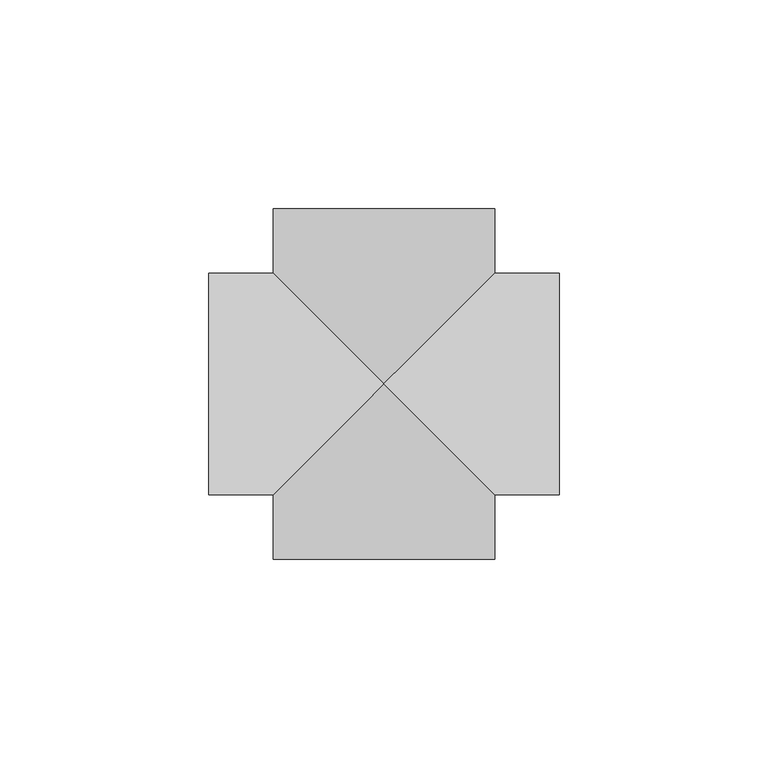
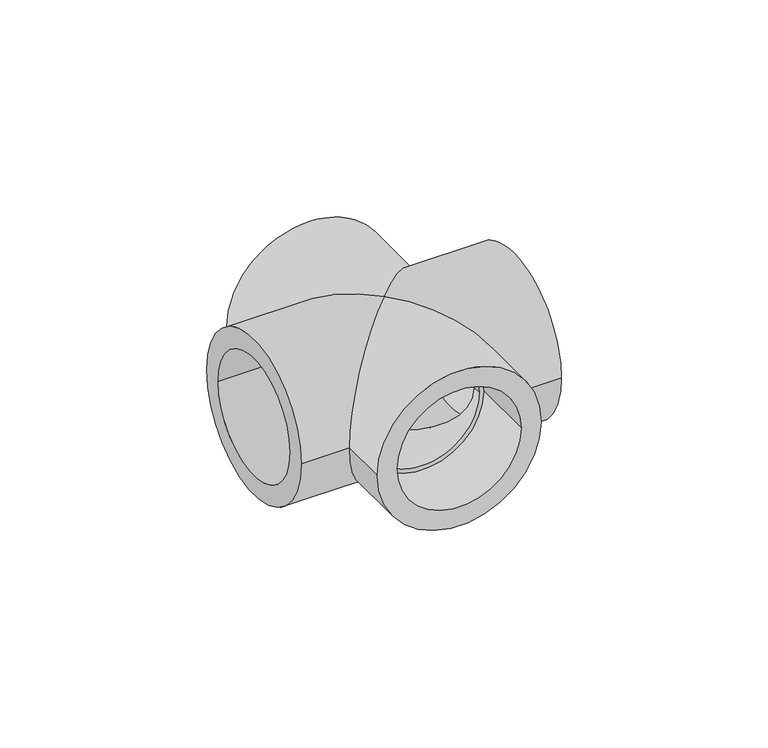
"""IFC4 building model written with IfcOpenShell, lengths in millimetres: pipe fitting geometry, 17_Крестовина : Белый цвет."""

from ifc_helpers import new_model, si_unit, frame, origin, place, context, project, spatial, polyline, circle_curve, ellipse_curve, source, transform, mapped, element, save
from ifc_brep_helpers import plane_surface, cylinder_surface, revolved_surface, advanced_brep


def pipe_fitting_b7cdcae7(model_context):
    return source(origin(), model_context, "Body", "AdvancedBrep", [
        advanced_brep(
        [(42.0, -26.5, 0.0), (42.0, 26.5, 0.0), (42.0, 20.0, 0.0), (42.0, -20.0, 0.0), (-42.0, -26.5, 0.0), (-42.0, 26.5, 0.0), (-42.0, -20.0, 0.0), (-42.0, 20.0, 0.0), (26.5, -26.5, 0.0), (0.0, 0.0, -26.5), (26.5, 26.5, 0.0), (-26.5, 26.5, 0.0), (-26.5, -26.5, 0.0), (0.0, 0.0, 26.5), (-18.5, -18.5, 0.0), (-18.5, -21.2, 0.0), (18.5, -21.2, 0.0), (18.5, -18.5, 0.0), (0.0, 0.0, -18.5), (-18.5, 21.2, 0.0), (-18.5, 18.5, 0.0), (18.5, 18.5, 0.0), (18.5, 21.2, 0.0), (0.0, 0.0, 18.5), (-21.2, -18.5, 0.0), (-21.2, 18.5, 0.0), (21.2, 18.5, 0.0), (21.2, -18.5, 0.0), (-20.0, 21.2, 0.0), (20.0, 21.2, 0.0), (20.0, 42.0, 0.0), (-20.0, 42.0, 0.0), (-26.5, -42.0, 0.0), (26.5, -42.0, 0.0), (20.0, -42.0, 0.0), (-20.0, -42.0, 0.0), (-26.5, 42.0, 0.0), (26.5, 42.0, 0.0), (-21.2, -20.0, 0.0), (-21.2, 20.0, 0.0), (-20.0, -21.2, 0.0), (20.0, -21.2, 0.0), (21.2, -20.0, 0.0), (21.2, 20.0, 0.0)],
        [
            (0, 1, circle_curve(frame((42.0, 0.0, 0.0), z_axis=(1.0, 0.0, 0.0), x_axis=(0.0, 1.0, 0.0)), 26.5)),
            (1, 0, circle_curve(frame((42.0, 0.0, 0.0), z_axis=(1.0, 0.0, 0.0), x_axis=(0.0, 1.0, 0.0)), 26.5)),
            (2, 3, circle_curve(frame((42.0, 0.0, 0.0), z_axis=(-1.0, 0.0, 0.0), x_axis=(0.0, 1.0, 0.0)), 20.0)),
            (3, 2, circle_curve(frame((42.0, 0.0, 0.0), z_axis=(-1.0, 0.0, 0.0), x_axis=(0.0, 1.0, 0.0)), 20.0)),
            (4, 5, circle_curve(frame((-42.0, 0.0, 0.0), z_axis=(-1.0, 0.0, 0.0), x_axis=(0.0, 1.0, 0.0)), 26.5)),
            (5, 4, circle_curve(frame((-42.0, 0.0, 0.0), z_axis=(-1.0, 0.0, 0.0), x_axis=(0.0, 1.0, 0.0)), 26.5)),
            (6, 7, circle_curve(frame((-42.0, 0.0, 0.0), z_axis=(1.0, 0.0, 0.0), x_axis=(0.0, 1.0, 0.0)), 20.0)),
            (7, 6, circle_curve(frame((-42.0, 0.0, 0.0), z_axis=(1.0, 0.0, 0.0), x_axis=(0.0, 1.0, 0.0)), 20.0)),
            (0, 8),
            (8, 9, ellipse_curve(frame((0.0, 0.0, 0.0), z_axis=(0.7071067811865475, 0.7071067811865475, 0.0), x_axis=(0.7071067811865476, -0.7071067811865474, 0.0)), 37.4766594, 26.5)),
            (9, 10, ellipse_curve(frame((0.0, 0.0, 0.0), z_axis=(0.7071067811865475, -0.7071067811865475, 0.0), x_axis=(0.7071067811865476, 0.7071067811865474, 0.0)), 37.4766594, 26.5)),
            (10, 1),
            (5, 11),
            (11, 9, ellipse_curve(frame((0.0, 0.0, 0.0), z_axis=(-0.7071067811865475, -0.7071067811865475, 0.0), x_axis=(0.7071067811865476, -0.7071067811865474, 0.0)), 37.4766594, 26.5)),
            (9, 12, ellipse_curve(frame((0.0, 0.0, 0.0), z_axis=(-0.7071067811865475, 0.7071067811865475, 0.0), x_axis=(0.7071067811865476, 0.7071067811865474, 0.0)), 37.4766594, 26.5)),
            (12, 4),
            (10, 13, ellipse_curve(frame((0.0, 0.0, 0.0), z_axis=(0.7071067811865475, -0.7071067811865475, 0.0), x_axis=(0.7071067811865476, 0.7071067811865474, 0.0)), 37.4766594, 26.5)),
            (13, 8, ellipse_curve(frame((0.0, 0.0, 0.0), z_axis=(0.7071067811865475, 0.7071067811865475, 0.0), x_axis=(0.7071067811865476, -0.7071067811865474, 0.0)), 37.4766594, 26.5)),
            (12, 13, ellipse_curve(frame((0.0, 0.0, 0.0), z_axis=(-0.7071067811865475, 0.7071067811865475, 0.0), x_axis=(0.7071067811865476, 0.7071067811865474, 0.0)), 37.4766594, 26.5)),
            (13, 11, ellipse_curve(frame((0.0, 0.0, 0.0), z_axis=(-0.7071067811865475, -0.7071067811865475, 0.0), x_axis=(0.7071067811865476, -0.7071067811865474, 0.0)), 37.4766594, 26.5)),
            (14, 15),
            (15, 16, circle_curve(frame((0.0, -21.2, 0.0), z_axis=(0.0, -1.0, 0.0), x_axis=(1.0, 0.0, 0.0)), 18.5)),
            (16, 17),
            (17, 18, ellipse_curve(frame((0.0, 0.0, 0.0), z_axis=(0.7071067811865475, 0.7071067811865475, 0.0), x_axis=(0.7071067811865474, -0.7071067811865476, 0.0)), 26.1629509, 18.5)),
            (18, 14, ellipse_curve(frame((0.0, 0.0, 0.0), z_axis=(-0.7071067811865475, 0.7071067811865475, 0.0), x_axis=(-0.7071067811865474, -0.7071067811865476, 0.0)), 26.1629509, 18.5)),
            (19, 20),
            (20, 18, ellipse_curve(frame((0.0, 0.0, 0.0), z_axis=(-0.7071067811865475, -0.7071067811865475, 0.0), x_axis=(0.7071067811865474, -0.7071067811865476, 0.0)), 26.1629509, 18.5)),
            (18, 21, ellipse_curve(frame((0.0, 0.0, 0.0), z_axis=(0.7071067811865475, -0.7071067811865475, 0.0), x_axis=(-0.7071067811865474, -0.7071067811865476, 0.0)), 26.1629509, 18.5)),
            (21, 22),
            (22, 19, circle_curve(frame((0.0, 21.2, 0.0), z_axis=(0.0, 1.0, 0.0), x_axis=(1.0, 0.0, 0.0)), 18.5)),
            (14, 23, ellipse_curve(frame((0.0, 0.0, 0.0), z_axis=(-0.7071067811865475, 0.7071067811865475, 0.0), x_axis=(-0.7071067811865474, -0.7071067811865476, 0.0)), 26.1629509, 18.5)),
            (23, 17, ellipse_curve(frame((0.0, 0.0, 0.0), z_axis=(0.7071067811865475, 0.7071067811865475, 0.0), x_axis=(0.7071067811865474, -0.7071067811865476, 0.0)), 26.1629509, 18.5)),
            (16, 15, circle_curve(frame((0.0, -21.2, 0.0), z_axis=(0.0, -1.0, 0.0), x_axis=(1.0, 0.0, 0.0)), 18.5)),
            (19, 22, circle_curve(frame((0.0, 21.2, 0.0), z_axis=(0.0, 1.0, 0.0), x_axis=(1.0, 0.0, 0.0)), 18.5)),
            (21, 23, ellipse_curve(frame((0.0, 0.0, 0.0), z_axis=(0.7071067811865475, -0.7071067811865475, 0.0), x_axis=(-0.7071067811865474, -0.7071067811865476, 0.0)), 26.1629509, 18.5)),
            (23, 20, ellipse_curve(frame((0.0, 0.0, 0.0), z_axis=(-0.7071067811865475, -0.7071067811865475, 0.0), x_axis=(0.7071067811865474, -0.7071067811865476, 0.0)), 26.1629509, 18.5)),
            (24, 14),
            (20, 25),
            (25, 24, circle_curve(frame((-21.2, 0.0, 0.0), z_axis=(-1.0, 0.0, 0.0), x_axis=(0.0, 1.0, 0.0)), 18.5)),
            (26, 21),
            (17, 27),
            (27, 26, circle_curve(frame((21.2, 0.0, 0.0), z_axis=(1.0, 0.0, 0.0), x_axis=(0.0, 1.0, 0.0)), 18.5)),
            (24, 25, circle_curve(frame((-21.2, 0.0, 0.0), z_axis=(-1.0, 0.0, 0.0), x_axis=(0.0, 1.0, 0.0)), 18.5)),
            (26, 27, circle_curve(frame((21.2, 0.0, 0.0), z_axis=(1.0, 0.0, 0.0), x_axis=(0.0, 1.0, 0.0)), 18.5)),
            (28, 29, circle_curve(frame((0.0, 21.2, 0.0), z_axis=(0.0, 1.0, 0.0), x_axis=(1.0, 0.0, 0.0)), 20.0)),
            (29, 28, circle_curve(frame((0.0, 21.2, 0.0), z_axis=(0.0, 1.0, 0.0), x_axis=(1.0, 0.0, 0.0)), 20.0)),
            (29, 30),
            (30, 31, circle_curve(frame((0.0, 42.0, 0.0), z_axis=(0.0, 1.0, 0.0), x_axis=(1.0, 0.0, 0.0)), 20.0)),
            (31, 28),
            (31, 30, circle_curve(frame((0.0, 42.0, 0.0), z_axis=(0.0, 1.0, 0.0), x_axis=(1.0, 0.0, 0.0)), 20.0)),
            (32, 33, circle_curve(frame((0.0, -42.0, 0.0), z_axis=(0.0, -1.0, 0.0), x_axis=(1.0, 0.0, 0.0)), 26.5)),
            (33, 32, circle_curve(frame((0.0, -42.0, 0.0), z_axis=(0.0, -1.0, 0.0), x_axis=(1.0, 0.0, 0.0)), 26.5)),
            (34, 35, circle_curve(frame((0.0, -42.0, 0.0), z_axis=(0.0, 1.0, 0.0), x_axis=(1.0, 0.0, 0.0)), 20.0)),
            (35, 34, circle_curve(frame((0.0, -42.0, 0.0), z_axis=(0.0, 1.0, 0.0), x_axis=(1.0, 0.0, 0.0)), 20.0)),
            (36, 37, circle_curve(frame((0.0, 42.0, 0.0), z_axis=(0.0, 1.0, 0.0), x_axis=(1.0, 0.0, 0.0)), 26.5)),
            (37, 36, circle_curve(frame((0.0, 42.0, 0.0), z_axis=(0.0, 1.0, 0.0), x_axis=(1.0, 0.0, 0.0)), 26.5)),
            (32, 12),
            (8, 33),
            (37, 10),
            (11, 36),
            (38, 39, circle_curve(frame((-21.2, 0.0, 0.0), z_axis=(-1.0, 0.0, 0.0), x_axis=(0.0, 1.0, 0.0)), 20.0)),
            (39, 38, circle_curve(frame((-21.2, 0.0, 0.0), z_axis=(-1.0, 0.0, 0.0), x_axis=(0.0, 1.0, 0.0)), 20.0)),
            (39, 7),
            (6, 38),
            (40, 41, circle_curve(frame((0.0, -21.2, 0.0), z_axis=(0.0, -1.0, 0.0), x_axis=(1.0, 0.0, 0.0)), 20.0)),
            (41, 40, circle_curve(frame((0.0, -21.2, 0.0), z_axis=(0.0, -1.0, 0.0), x_axis=(1.0, 0.0, 0.0)), 20.0)),
            (40, 35),
            (34, 41),
            (42, 43, circle_curve(frame((21.2, 0.0, 0.0), z_axis=(1.0, 0.0, 0.0), x_axis=(0.0, 1.0, 0.0)), 20.0)),
            (43, 42, circle_curve(frame((21.2, 0.0, 0.0), z_axis=(1.0, 0.0, 0.0), x_axis=(0.0, 1.0, 0.0)), 20.0)),
            (42, 3),
            (2, 43),
        ],
        [
            plane_surface(frame((42.0, 26.5, 0.0), z_axis=(1.0, 0.0, 0.0), x_axis=(0.0, 0.0, 1.0))),
            plane_surface(frame((-42.0, 26.5, 0.0), z_axis=(-1.0, 0.0, 0.0), x_axis=(0.0, 0.0, -1.0))),
            cylinder_surface(frame((-42.0, 0.0, 0.0), z_axis=(1.0, 0.0, 0.0), x_axis=(0.0, 1.0, 0.0)), 26.5),
            revolved_surface(polyline([(18.5, -21.2, 0.0), (18.5, 18.499999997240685, 0.0)]), (0.0, 21.2, 0.0), (0.0, -1.0, 0.0)),
            revolved_surface(polyline([(18.5, -18.499999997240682, 0.0), (18.5, 21.2, 0.0)]), (0.0, 21.2, 0.0), (0.0, -1.0, 0.0)),
            revolved_surface(polyline([(18.499999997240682, 18.5, 0.0), (-21.2, 18.5, 0.0)]), (-21.2, 0.0, 0.0), (1.0, 0.0, 0.0)),
            revolved_surface(polyline([(21.2, 18.5, 0.0), (-18.499999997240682, 18.5, 0.0)]), (-21.2, 0.0, 0.0), (1.0, 0.0, 0.0)),
            plane_surface(frame((20.0, 21.2, 0.0), z_axis=(0.0, 1.0, 0.0), x_axis=(0.0, 0.0, 1.0))),
            revolved_surface(polyline([(20.0, 42.0, 0.0), (20.0, 21.2, 0.0)]), (0.0, 21.2, 0.0), (0.0, 1.0, 0.0)),
            plane_surface(frame((26.5, -42.0, 0.0), z_axis=(0.0, -1.0, 0.0), x_axis=(0.0, 0.0, 1.0))),
            plane_surface(frame((26.5, 42.0, 0.0), z_axis=(0.0, 1.0, 0.0), x_axis=(0.0, 0.0, -1.0))),
            cylinder_surface(frame((0.0, 42.0, 0.0), z_axis=(0.0, -1.0, 0.0), x_axis=(1.0, 0.0, 0.0)), 26.5),
            plane_surface(frame((-21.2, 20.0, 0.0), z_axis=(-1.0, 0.0, 0.0), x_axis=(0.0, 0.0, 1.0))),
            revolved_surface(polyline([(-42.0, 20.0, 0.0), (-21.2, 20.0, 0.0)]), (-21.2, 0.0, 0.0), (-1.0, 0.0, 0.0)),
            plane_surface(frame((20.0, -21.2, 0.0), z_axis=(0.0, -1.0, 0.0), x_axis=(0.0, 0.0, -1.0))),
            revolved_surface(polyline([(20.0, -42.0, 0.0), (20.0, -21.2, 0.0)]), (0.0, -21.2, 0.0), (0.0, -1.0, 0.0)),
            plane_surface(frame((21.2, 20.0, 0.0), z_axis=(1.0, 0.0, 0.0), x_axis=(0.0, 0.0, -1.0))),
            revolved_surface(polyline([(42.0, 20.0, 0.0), (21.2, 20.0, 0.0)]), (21.2, 0.0, 0.0), (1.0, 0.0, 0.0)),
        ],
        [
            (0, [[1, 2], [3, 4]]),
            (1, [[5, 6], [7, 8]]),
            (2, [[-1, 9, 10, 11, 12]]),
            (2, [[-6, 13, 14, 15, 16]]),
            (2, [[-2, -12, 17, 18, -9]]),
            (2, [[-5, -16, 19, 20, -13]]),
            (3, [[21, 22, 23, 24, 25]]),
            (4, [[26, 27, 28, 29, 30]]),
            (3, [[-21, 31, 32, -23, 33]]),
            (4, [[-26, 34, -29, 35, 36]]),
            (5, [[37, -25, -27, 38, 39]]),
            (6, [[40, -28, -24, 41, 42]]),
            (5, [[-37, 43, -38, -36, -31]]),
            (6, [[-40, 44, -41, -32, -35]]),
            (7, [[45, 46], [-30, -34]]),
            (8, [[-46, 47, 48, 49]]),
            (8, [[-45, -49, 50, -47]]),
            (9, [[51, 52], [53, 54]]),
            (10, [[55, 56], [-48, -50]]),
            (11, [[-51, 57, -15, -10, 58]]),
            (11, [[-56, 59, -11, -14, 60]]),
            (11, [[-52, -58, -18, -19, -57]]),
            (11, [[-55, -60, -20, -17, -59]]),
            (12, [[61, 62], [-39, -43]]),
            (13, [[-62, 63, -7, 64]]),
            (13, [[-61, -64, -8, -63]]),
            (14, [[65, 66], [-22, -33]]),
            (15, [[-65, 67, -53, 68]]),
            (15, [[-66, -68, -54, -67]]),
            (16, [[69, 70], [-42, -44]]),
            (17, [[-69, 71, -3, 72]]),
            (17, [[-70, -72, -4, -71]]),
        ],
    ),
    ])


if __name__ == "__main__":
    model = new_model("IFC4")
    model_context = context("Model", 3, world=origin())
    ifc_project = project(units=[si_unit("LENGTHUNIT", "METRE", prefix="MILLI")], contexts=[model_context])
    site = spatial("IfcSite", under=ifc_project)
    building = spatial("IfcBuilding", under=site)
    placement = place(None, origin())
    pipe_fitting_shape = pipe_fitting_b7cdcae7(model_context)
    element("IfcPipeFitting", 1, ObjectType="17_Крестовина : Белый цвет", at=placement, inside=building, context=model_context, shape_type="MappedRepresentation", body=[
        mapped(pipe_fitting_shape, transform((0.0, 0.0, 0.0), x_axis=(1.0, 0.0, 0.0), y_axis=(0.0, 1.0, 0.0), z_axis=(0.0, 0.0, 1.0))),
    ])
    save(model, "model.ifc")
